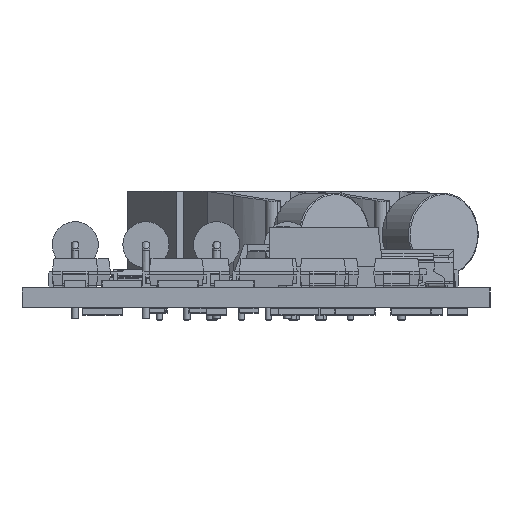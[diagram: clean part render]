
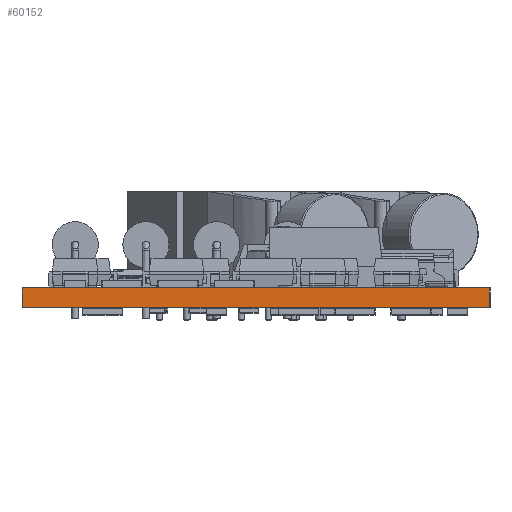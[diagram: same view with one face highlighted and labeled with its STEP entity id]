
A CAD part, left-side view. The second image highlights one B-rep face of the part: STEP entity #60152.
In plain terms, the highlighted planar face has unit normal (-1, 0, 0).
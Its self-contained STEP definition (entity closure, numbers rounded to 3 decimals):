
#11521=VERTEX_POINT('',#83256);
#11522=VERTEX_POINT('',#83258);
#11524=VERTEX_POINT('',#83264);
#11525=VERTEX_POINT('',#83266);
#16756=VECTOR('',#68459,1.);
#16759=VECTOR('',#68463,1.);
#16760=VECTOR('',#68464,1.);
#16761=VECTOR('',#68465,1.);
#23195=LINE('',#83257,#16756);
#23198=LINE('',#83263,#16759);
#23199=LINE('',#83265,#16760);
#23200=LINE('',#83267,#16761);
#29634=EDGE_CURVE('',#11521,#11522,#23195,.T.);
#29637=EDGE_CURVE('',#11521,#11524,#23198,.T.);
#29638=EDGE_CURVE('',#11524,#11525,#23199,.T.);
#29639=EDGE_CURVE('',#11522,#11525,#23200,.T.);
#37689=ORIENTED_EDGE('',*,*,#29637,.T.);
#37690=ORIENTED_EDGE('',*,*,#29638,.T.);
#37691=ORIENTED_EDGE('',*,*,#29639,.F.);
#37692=ORIENTED_EDGE('',*,*,#29634,.F.);
#53790=EDGE_LOOP('',(#37689,#37690,#37691,#37692));
#56971=FACE_BOUND('',#53790,.T.);
#60152=ADVANCED_FACE('',(#56971),#103227,.F.);
#63167=AXIS2_PLACEMENT_3D('',#83262,#68462,$);
#68459=DIRECTION('',(0.,0.,1.));
#68462=DIRECTION('',(1.,0.,0.));
#68463=DIRECTION('',(0.,-1.,0.));
#68464=DIRECTION('',(0.,0.,1.));
#68465=DIRECTION('',(0.,-1.,0.));
#83256=CARTESIAN_POINT('',(0.,36.957,0.));
#83257=CARTESIAN_POINT('',(0.,36.957,0.));
#83258=CARTESIAN_POINT('',(0.,36.957,1.57));
#83262=CARTESIAN_POINT('',(0.,36.957,0.));
#83263=CARTESIAN_POINT('',(0.,36.957,0.));
#83264=CARTESIAN_POINT('',(0.,0.,0.));
#83265=CARTESIAN_POINT('',(0.,0.,0.));
#83266=CARTESIAN_POINT('',(0.,0.,1.57));
#83267=CARTESIAN_POINT('',(0.,36.957,1.57));
#103227=PLANE('',#63167);
